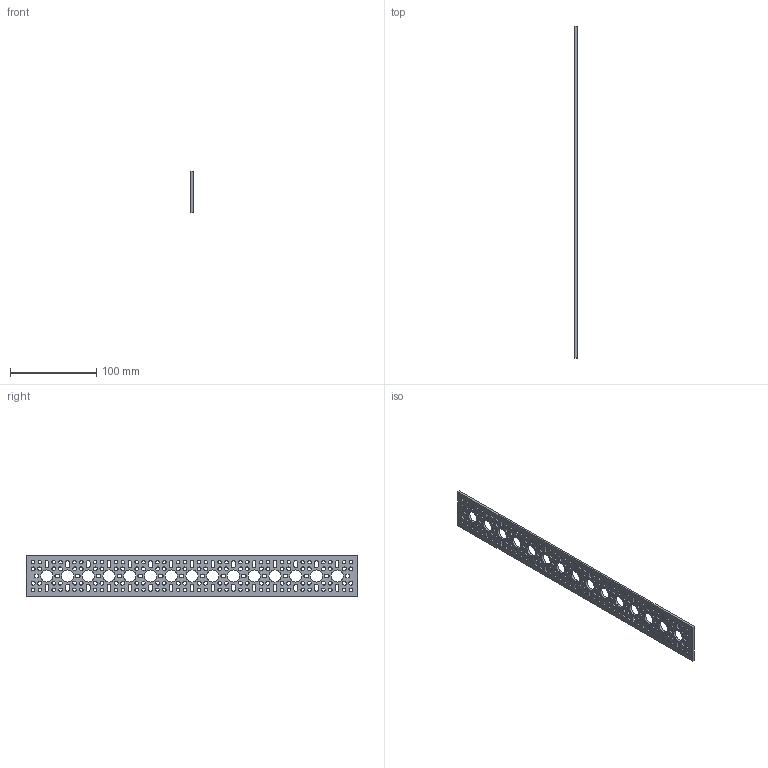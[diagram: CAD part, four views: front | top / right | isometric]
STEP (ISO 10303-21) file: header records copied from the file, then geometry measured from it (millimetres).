
FILE_DESCRIPTION (( 'STEP AP203' ), '1' );
FILE_NAME ('1104-0015-0384 rev1.STEP', '2017-05-12T20:46:09', ( '' ), ( '' ), 'SwSTEP 2.0', 'SolidWorks 2016', '' );
FILE_SCHEMA (( 'CONFIG_CONTROL_DESIGN' ));
Length unit declared in the file: millimetre
Products named in the file (1): 1104-0015-0384 rev1
Bounding box: 2.5 x 384 x 48 mm (x, y, z)
Volume: 32776.2 mm3; surface area: 36529.1 mm2
Topology: 1 solids, 1 shells, 683 faces, 2043 edges, 1362 vertices
Faces by surface type: cylinder 457, plane 226
Entity records: 24244 total; most frequent: DIRECTION 4325, CARTESIAN_POINT 4089, ORIENTED_EDGE 4086, EDGE_CURVE 2043, AXIS2_PLACEMENT_3D 1598, VERTEX_POINT 1362, VECTOR 1129, LINE 1129
